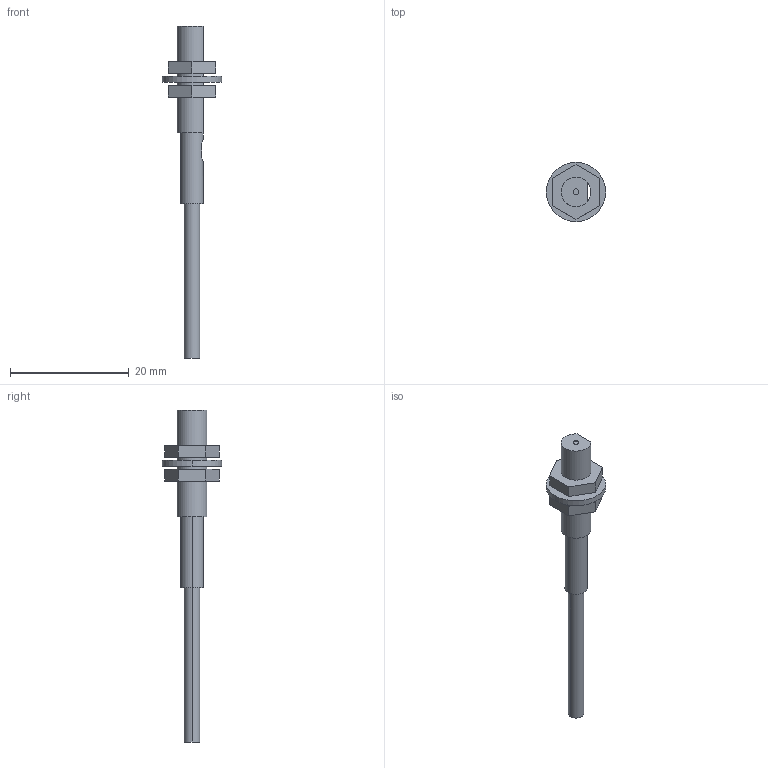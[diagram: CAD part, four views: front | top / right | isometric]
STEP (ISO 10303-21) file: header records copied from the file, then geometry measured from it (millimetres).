
FILE_DESCRIPTION (( 'STEP AP203' ), '1' );
FILE_NAME ('GX-5M.STEP', '2005-09-08T14:50:18', ( ' ' ), ( ' ' ), 'SwSTEP 2.0', 'SolidWorks 2004073', '' );
FILE_SCHEMA (( 'CONFIG_CONTROL_DESIGN' ));
Length unit declared in the file: millimetre
Products named in the file (1): GX-5M
Bounding box: 10 x 10 x 56 mm (x, y, z)
Volume: 802.5 mm3; surface area: 1154.7 mm2
Topology: 4 solids, 4 shells, 45 faces, 102 edges, 67 vertices
Faces by surface type: plane 27, cylinder 18
Entity records: 1376 total; most frequent: CARTESIAN_POINT 251, DIRECTION 223, ORIENTED_EDGE 204, EDGE_CURVE 102, AXIS2_PLACEMENT_3D 79, VERTEX_POINT 67, VECTOR 65, LINE 65
